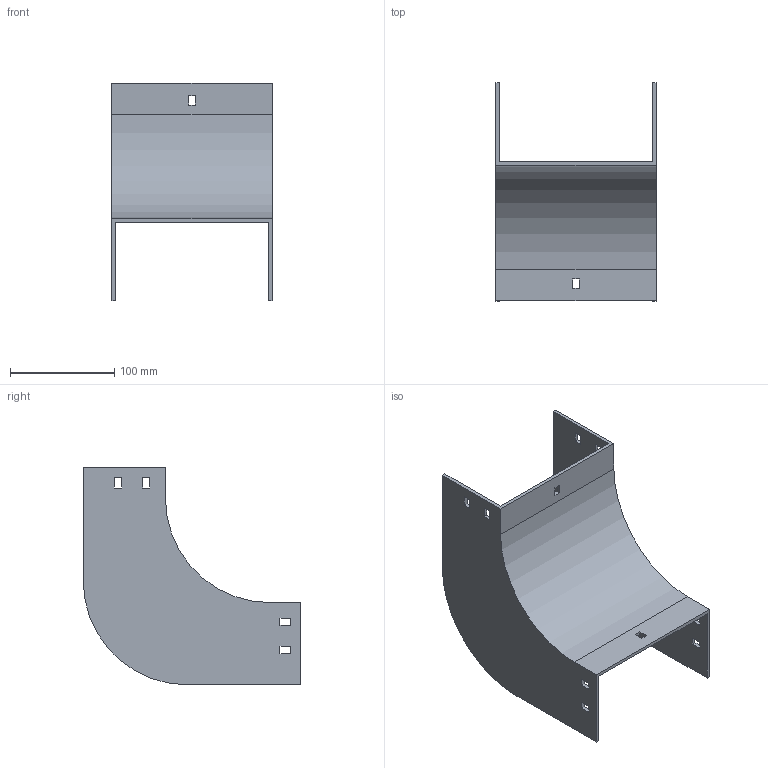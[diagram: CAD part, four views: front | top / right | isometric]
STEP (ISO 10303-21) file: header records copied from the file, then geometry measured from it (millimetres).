
FILE_DESCRIPTION (( 'STEP AP214' ), '1' );
FILE_NAME ('33F1C150.step', '2025-02-21T12:52:49', ( '' ), ( '' ), 'SwSTEP 2.0', 'SolidWorks 2023', '' );
FILE_SCHEMA (( 'AUTOMOTIVE_DESIGN' ));
Length unit declared in the file: millimetre
Products named in the file (1): 33F1C150
Bounding box: 154 x 209 x 209 mm (x, y, z)
Volume: 298199.3 mm3; surface area: 176309.9 mm2
Topology: 1 solids, 1 shells, 58 faces, 168 edges, 112 vertices
Faces by surface type: plane 54, cylinder 4
Entity records: 1943 total; most frequent: CARTESIAN_POINT 339, ORIENTED_EDGE 336, DIRECTION 294, EDGE_CURVE 168, VECTOR 160, LINE 160, VERTEX_POINT 112, EDGE_LOOP 78
